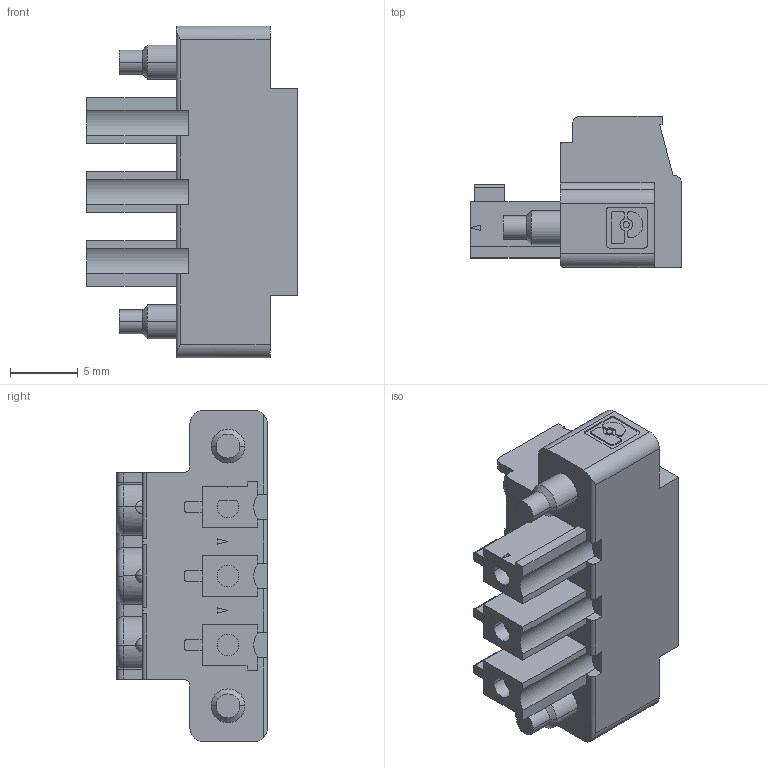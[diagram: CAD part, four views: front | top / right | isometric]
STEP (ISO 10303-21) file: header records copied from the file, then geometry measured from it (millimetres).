
FILE_DESCRIPTION((''),'2;1');
FILE_NAME('CU_ASSY_USB-CAN-SYNC-CONN','2010-09-27T',('jpfaff'),(''),'PRO/ENGINEER BY PARAMETRIC TECHNOLOGY CORPORATION, 2006510','PRO/ENGINEER BY PARAMETRIC TECHNOLOGY CORPORATION, 2006510','');
FILE_SCHEMA(('CONFIG_CONTROL_DESIGN'));
Length unit declared in the file: millimetre
Products named in the file (1): CU_ASSY_USB-CAN-SYNC-CONN
Bounding box: 15.5 x 11.1 x 24.4 mm (x, y, z)
Surface area: 1738.8 mm2 (no closed solid volume)
Topology: 0 solids, 4 shells, 367 faces, 1000 edges, 661 vertices
Faces by surface type: plane 200, cylinder 139, sphere 12, cone 10, torus 6
Entity records: 11929 total; most frequent: CARTESIAN_POINT 2692, ORIENTED_EDGE 1946, DIRECTION 1846, EDGE_CURVE 1000, VERTEX_POINT 661, AXIS2_PLACEMENT_3D 635, VECTOR 576, LINE 576
